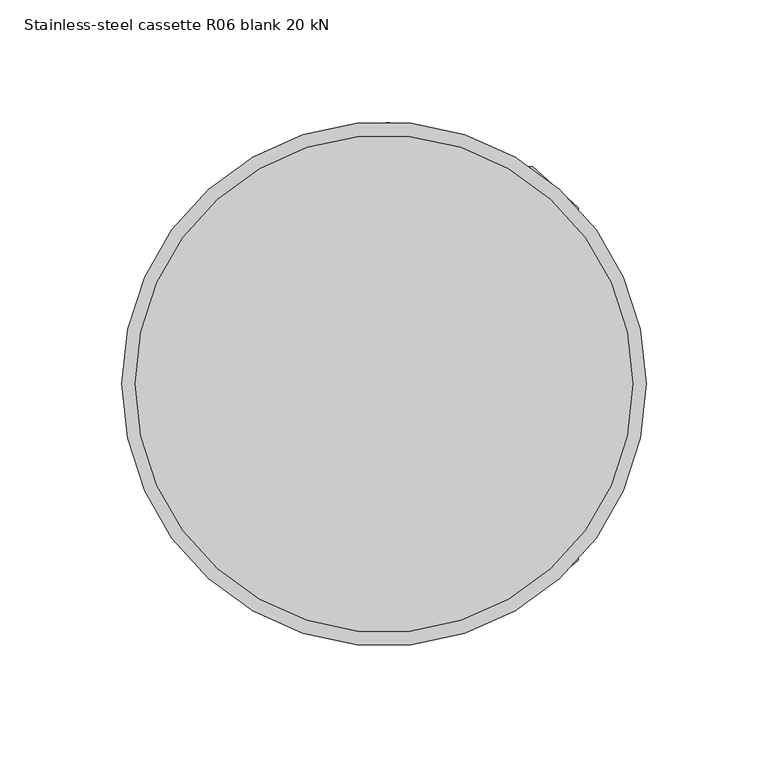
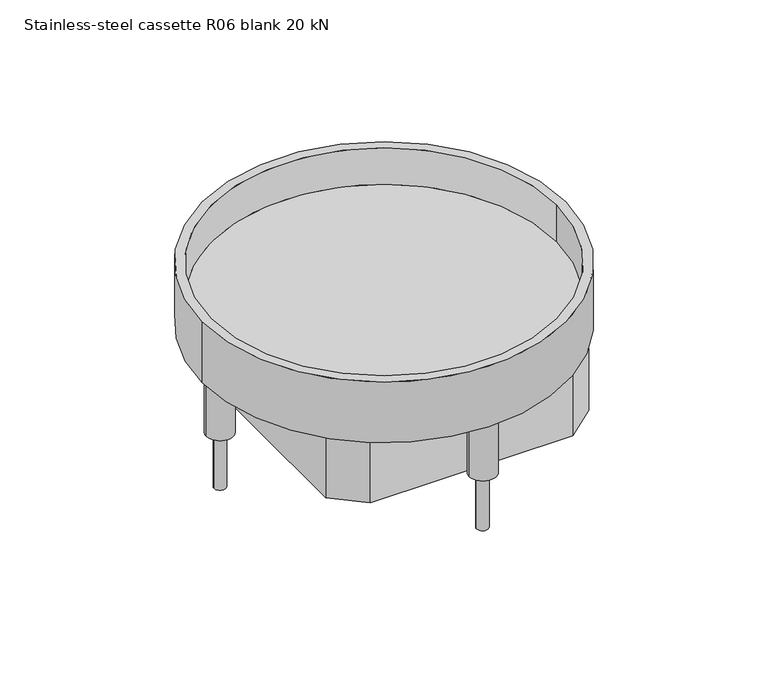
"""IFC4 building model written with IfcOpenShell, lengths in millimetres: proxy geometry, Electrical_Installation_Hager_VE-EE_EKSR0620BL-Heavy-duty-cassette-R06-blank : Stainless-steel cassette R06 blank 20 kN."""

import ifcopenshell
import ifcopenshell.guid

model = None  # the IFC model being written
_history = None  # IfcOwnerHistory: only IFC2X3 demands one
_inside = {}  # id of a spatial element -> (the spatial element, [elements in it])
_under = {}  # id of a project, library or spatial element -> (it, [spatial elements below it])
_declared = {}  # id of a project -> (the project, [libraries it declares])
_typed = {}  # id of a type object -> (the type object, [elements of that type])
_made_of = {}  # id of a material, layer set ... -> (it, [elements and type objects made of it])


def new_model(schema):
    """Start an empty IFC model of exactly this schema.

    Asked for "IFC4X3", IfcOpenShell would pick the latest addendum, in which some entities
    have other attributes; the version numbers below select the first issue.
    IFC2X3 requires an IfcOwnerHistory on every rooted entity: one is made here for all.
    """
    global model, _history
    if schema == "IFC4X3":
        model = ifcopenshell.file(schema_version=(4, 3, 0, 0))
    else:
        model = ifcopenshell.file(schema=schema)
    _inside.clear()
    _under.clear()
    _declared.clear()
    _typed.clear()
    _made_of.clear()
    _history = None
    if model.schema == "IFC2X3":
        org = make("IfcOrganization", Name="unknown")
        user = make(
            "IfcPersonAndOrganization",
            ThePerson=make("IfcPerson", FamilyName="unknown"),
            TheOrganization=org,
        )
        app = make(
            "IfcApplication",
            ApplicationDeveloper=org,
            Version="unknown",
            ApplicationFullName="unknown",
            ApplicationIdentifier="unknown",
        )
        _history = make(
            "IfcOwnerHistory",
            OwningUser=user,
            OwningApplication=app,
            ChangeAction="ADDED",
            CreationDate=0,
        )
    return model


def make(cls, **values):
    """One entity of the class cls with the attributes given. An attribute that is None is left unset."""
    return model.create_entity(
        cls, **{name: value for name, value in values.items() if value is not None}
    )


def rooted(cls, **values):
    """An entity with a GlobalId (a new one), such as an element, a storey or a relation."""
    return make(cls, GlobalId=ifcopenshell.guid.new(), OwnerHistory=_history, **values)


def si_unit(unit_type, name, prefix=None):
    """IfcSIUnit, for example si_unit("LENGTHUNIT", "METRE", prefix="MILLI")."""
    return make("IfcSIUnit", UnitType=unit_type, Prefix=prefix, Name=name)


def assignment(units):
    """IfcUnitAssignment: the units of a project."""
    return None if units is None else make("IfcUnitAssignment", Units=units)


def point(xyz):
    """IfcCartesianPoint."""
    return None if xyz is None else make("IfcCartesianPoint", Coordinates=xyz)


def direction(xyz):
    """IfcDirection."""
    return None if xyz is None else make("IfcDirection", DirectionRatios=xyz)


def frame(location, z_axis=None, x_axis=None):
    """IfcAxis2Placement3D, a coordinate frame: its origin and axes. An axis left out is left unset."""
    return make(
        "IfcAxis2Placement3D",
        Location=point(location),
        Axis=direction(z_axis),
        RefDirection=direction(x_axis),
    )


def frame_2d(location, x_axis=None):
    """IfcAxis2Placement2D, a coordinate frame in the plane: its origin and x axis."""
    return make(
        "IfcAxis2Placement2D", Location=point(location), RefDirection=direction(x_axis)
    )


def origin():
    """The frame at (0, 0, 0) with its axes left unset."""
    return frame((0.0, 0.0, 0.0))


def place(relative_to, where):
    """IfcLocalPlacement: puts the frame where relative to a parent placement (None: the world)."""
    return make(
        "IfcLocalPlacement", PlacementRelTo=relative_to, RelativePlacement=where
    )


def context(
    kind, dimensions, precision=None, world=None, true_north=None, identifier=None
):
    """IfcGeometricRepresentationContext, for example the 3D "Model" context."""
    return make(
        "IfcGeometricRepresentationContext",
        ContextIdentifier=identifier,
        ContextType=kind,
        CoordinateSpaceDimension=dimensions,
        Precision=precision,
        WorldCoordinateSystem=world,
        TrueNorth=true_north,
    )


def project(units=None, contexts=None):
    """IfcProject with its units and contexts."""
    return rooted(
        "IfcProject",
        Name="project",
        RepresentationContexts=contexts,
        UnitsInContext=assignment(units),
    )


def spatial(cls, under=None, at=None, **own):
    """A site, building, storey or space (cls), placed at a placement, below another one or the project."""
    s = rooted(cls, ObjectPlacement=at, **own)
    if under is not None:
        _under.setdefault(under.id(), (under, []))[1].append(s)
    return s


def polyline(points):
    """IfcPolyline through the points."""
    return make("IfcPolyline", Points=[point(p) for p in points])


def circle_curve(where, radius):
    """IfcCircle in the frame where."""
    return make("IfcCircle", Position=where, Radius=radius)


def trimmed(basis, trim1, trim2, sense, master):
    """IfcTrimmedCurve: the piece of a basis curve between two trims."""
    return make(
        "IfcTrimmedCurve",
        BasisCurve=basis,
        Trim1=trim1,
        Trim2=trim2,
        SenseAgreement=sense,
        MasterRepresentation=master,
    )


def segment(curve, same_sense, transition):
    """IfcCompositeCurveSegment."""
    return make(
        "IfcCompositeCurveSegment",
        Transition=transition,
        SameSense=same_sense,
        ParentCurve=curve,
    )


def composite_curve(segments, self_intersect=None):
    """IfcCompositeCurve: segments joined end to end."""
    return make("IfcCompositeCurve", Segments=segments, SelfIntersect=self_intersect)


def outline(outer, holes=None, kind="AREA"):
    """IfcArbitraryClosedProfileDef: a profile drawn as a closed curve; with holes, ...WithVoids."""
    if holes is None:
        return make("IfcArbitraryClosedProfileDef", ProfileType=kind, OuterCurve=outer)
    return make(
        "IfcArbitraryProfileDefWithVoids",
        ProfileType=kind,
        OuterCurve=outer,
        InnerCurves=holes,
    )


def extrude(swept, where, along, depth):
    """IfcExtrudedAreaSolid: the profile swept, set in the frame where, extruded along a direction by depth."""
    return make(
        "IfcExtrudedAreaSolid",
        SweptArea=swept,
        Position=where,
        ExtrudedDirection=direction(along),
        Depth=depth,
    )


def shape(context_of_items, identifier, shape_type, items):
    """IfcShapeRepresentation: the items that make up one representation, for example the "Body"."""
    return make(
        "IfcShapeRepresentation",
        ContextOfItems=context_of_items,
        RepresentationIdentifier=identifier,
        RepresentationType=shape_type,
        Items=items,
    )


def source(mapping_origin, context_of_items, identifier, shape_type, items):
    """IfcRepresentationMap: a shape defined once, which mapped items show again and again."""
    return make(
        "IfcRepresentationMap",
        MappingOrigin=mapping_origin,
        MappedRepresentation=shape(context_of_items, identifier, shape_type, items),
    )


def transform(
    local_origin,
    x_axis=None,
    y_axis=None,
    z_axis=None,
    scale=None,
    scale2=None,
    scale3=None,
    uniform=True,
):
    """IfcCartesianTransformationOperator3D, or its non-uniform kind. x_axis, y_axis, z_axis: its Axis1, 2, 3."""
    if uniform:
        return make(
            "IfcCartesianTransformationOperator3D",
            Axis1=direction(x_axis),
            Axis2=direction(y_axis),
            LocalOrigin=point(local_origin),
            Scale=scale,
            Axis3=direction(z_axis),
        )
    return make(
        "IfcCartesianTransformationOperator3DnonUniform",
        Axis1=direction(x_axis),
        Axis2=direction(y_axis),
        LocalOrigin=point(local_origin),
        Scale=scale,
        Axis3=direction(z_axis),
        Scale2=scale2,
        Scale3=scale3,
    )


def mapped(mapping_source, mapping_target):
    """IfcMappedItem: shows the shape of a source again, moved by a transform."""
    return make(
        "IfcMappedItem", MappingSource=mapping_source, MappingTarget=mapping_target
    )


def made_of(thing, what):
    """Note that an element or type object is made of a material, layer set ...; save() writes the relation."""
    if what is not None:
        _made_of.setdefault(what.id(), (what, []))[1].append(thing)
    return thing


def element(
    cls,
    number,
    at=None,
    inside=None,
    cuts=None,
    type_object=None,
    material=None,
    context=None,
    identifier="Body",
    shape_type=None,
    held_by="IfcProductDefinitionShape",
    body=None,
    shapes=None,
    **own,
):
    """One element of the class cls, such as IfcWall. Its Tag is "e" and its number.

    at: its placement. inside: the storey or other place that contains it. cuts: it is an
    opening in that element (IfcRelVoidsElement). A single representation is given by context,
    identifier, shape_type and body (its items); several are given by shapes. held_by: the class
    of the entity that holds the representations. save() writes the other relations.
    """
    e = rooted(cls, Tag="e%d" % number, ObjectPlacement=at, **own)
    if body is not None:
        shapes = [shape(context, identifier, shape_type, body)]
    if shapes is not None:
        e.Representation = make(held_by, Representations=shapes)
    if inside is not None:
        _inside.setdefault(inside.id(), (inside, []))[1].append(e)
    if cuts is not None:
        rooted(
            "IfcRelVoidsElement", RelatingBuildingElement=cuts, RelatedOpeningElement=e
        )
    if type_object is not None:
        _typed.setdefault(type_object.id(), (type_object, []))[1].append(e)
    return made_of(e, material)


def aggregate(whole, parts):
    """IfcRelAggregates: a whole, such as a stair, and the parts it consists of."""
    return rooted("IfcRelAggregates", RelatingObject=whole, RelatedObjects=parts)


def save(model, path):
    """Write the relations noted so far, then the file.

    IfcRelAggregates (storeys below a building ...), IfcRelContainedInSpatialStructure (elements
    in a storey), IfcRelDefinesByType, IfcRelAssociatesMaterial and IfcRelDeclares: one each for
    every whole, place, type object, material and project.
    """
    for whole, parts in _under.values():
        aggregate(whole, parts)
    for where, things in _inside.values():
        rooted(
            "IfcRelContainedInSpatialStructure",
            RelatedElements=things,
            RelatingStructure=where,
        )
    for kind, things in _typed.values():
        rooted("IfcRelDefinesByType", RelatedObjects=things, RelatingType=kind)
    for what, things in _made_of.values():
        rooted("IfcRelAssociatesMaterial", RelatedObjects=things, RelatingMaterial=what)
    for by, libraries in _declared.values():
        rooted("IfcRelDeclares", RelatingContext=by, RelatedDefinitions=libraries)
    model.write(path)


def plane_surface(at):
    """IfcPlane: the flat surface through the origin of the frame at, square to its z axis."""
    return make("IfcPlane", Position=at)


def cylinder_surface(at, radius):
    """IfcCylindricalSurface: all points at the distance radius from the z axis of the frame at."""
    return make("IfcCylindricalSurface", Position=at, Radius=radius)


def revolved_surface(curve, axis_point, axis_direction):
    """IfcSurfaceOfRevolution: the curve turned about the line through axis_point along axis_direction."""
    return make(
        "IfcSurfaceOfRevolution",
        SweptCurve=make("IfcArbitraryOpenProfileDef", ProfileType="CURVE", Curve=curve),
        AxisPosition=make("IfcAxis1Placement", Location=point(axis_point), Axis=direction(axis_direction)),
    )


def advanced_brep(points, edges, surfaces, faces):
    """IfcAdvancedBrep: a solid bounded by faces that lie on surfaces and meet in shared edges.

    An edge is (start, end): straight between two places in points (the first is 0);
    or (start, end, curve); or (start, end, curve, False) where it runs against its curve.
    A face is (place in surfaces, loops), or (place, loops, False) where it looks against
    its surface's normal. A loop lists edges by number (the first is 1), with a minus sign
    where the edge is run from its end to its start. The first loop is the outer one.
    """
    corners = [point(p) for p in points]
    vertices = [make("IfcVertexPoint", VertexGeometry=c) for c in corners]
    made = []
    for start, end, *more in edges:
        made.append(
            make(
                "IfcEdgeCurve",
                EdgeStart=vertices[start],
                EdgeEnd=vertices[end],
                EdgeGeometry=more[0] if more else make("IfcPolyline", Points=[corners[start], corners[end]]),
                SameSense=more[1] if len(more) > 1 else True,
            )
        )
    hull = []
    for where, loops, *sense in faces:
        bounds = []
        for j, loop in enumerate(loops):
            ring = [make("IfcOrientedEdge", EdgeElement=made[abs(k) - 1], Orientation=k > 0) for k in loop]
            bounds.append(
                make(
                    "IfcFaceOuterBound" if j == 0 else "IfcFaceBound",
                    Bound=make("IfcEdgeLoop", EdgeList=ring),
                    Orientation=True,
                )
            )
        hull.append(make("IfcAdvancedFace", Bounds=bounds, FaceSurface=surfaces[where], SameSense=sense[0] if sense else True))
    return make("IfcAdvancedBrep", Outer=make("IfcClosedShell", CfsFaces=hull))


def stainless_steel_cassette_r06_blank_20_kn_3fd5dd5a(model_context):
    return source(origin(), model_context, "Body", "SolidModel", [
        extrude(outline(composite_curve([segment(trimmed(circle_curve(frame_2d((-96.75, 0.625)), 3.5), [point((-100.25, 0.625))], [point((-93.25, 0.625))], False, "CARTESIAN"), True, "CONTINUOUS"), segment(trimmed(circle_curve(frame_2d((-96.75, 0.625)), 3.5), [point((-93.25, 0.625))], [point((-100.25, 0.625))], False, "CARTESIAN"), True, "CONTINUOUS")], self_intersect=False)), frame((0.0, 0.0, -105.0), z_axis=(0.0, 0.0, 1.0), x_axis=(1.0, 0.0, 0.0)), (0.0, 0.0, 1.0), 69.011943),
        extrude(outline(composite_curve([segment(trimmed(circle_curve(frame_2d((1.4883358, 98.943982)), 3.5), [point((-2.0116642, 98.943982))], [point((4.9883358, 98.943982))], False, "CARTESIAN"), True, "CONTINUOUS"), segment(trimmed(circle_curve(frame_2d((1.4883358, 98.943982)), 3.5), [point((4.9883358, 98.943982))], [point((-2.0116642, 98.943982))], False, "CARTESIAN"), True, "CONTINUOUS")], self_intersect=False)), frame((0.0, 0.0, -105.0), z_axis=(0.0, 0.0, 1.0), x_axis=(1.0, 0.0, 0.0)), (0.0, 0.0, 1.0), 69.011943),
        extrude(outline(composite_curve([segment(trimmed(circle_curve(frame_2d((100.1407046, 0.5401818)), 3.548869), [point((96.5918356, 0.5401818))], [point((103.6895736, 0.5401818))], False, "CARTESIAN"), True, "CONTINUOUS"), segment(trimmed(circle_curve(frame_2d((100.1407046, 0.5401818)), 3.548869), [point((103.6895736, 0.5401818))], [point((96.5918356, 0.5401818))], False, "CARTESIAN"), True, "CONTINUOUS")], self_intersect=False)), frame((0.0, 0.0, -105.0), z_axis=(0.0, 0.0, 1.0), x_axis=(1.0, 0.0, 0.0)), (0.0, 0.0, 1.0), 69.011943),
        extrude(outline(composite_curve([segment(trimmed(circle_curve(frame_2d((1.6828656, -97.9253063)), 3.5), [point((-1.8171344, -97.9253063))], [point((5.1828656, -97.9253063))], False, "CARTESIAN"), True, "CONTINUOUS"), segment(trimmed(circle_curve(frame_2d((1.6828656, -97.9253063)), 3.5), [point((5.1828656, -97.9253063))], [point((-1.8171344, -97.9253063))], False, "CARTESIAN"), True, "CONTINUOUS")], self_intersect=False)), frame((0.0, 0.0, -105.0), z_axis=(0.0, 0.0, 1.0), x_axis=(1.0, 0.0, 0.0)), (0.0, 0.0, 1.0), 69.011943),
        advanced_brep(
        [(102.0, 0.0, -20.988057), (-102.0, 0.0, -20.988057), (-107.5, 0.0, -35.988057), (107.5, 0.0, -35.988057), (-107.5, 0.0, 2.011943), (107.5, 0.0, 2.011943), (-102.0, 0.0, 2.011943), (102.0, 0.0, 2.011943)],
        [
            (0, 1, circle_curve(frame((0.0, 0.0, -20.988057), z_axis=(0.0, 0.0, 1.0), x_axis=(1.0, 0.0, 0.0)), 102.0)),
            (1, 0, circle_curve(frame((0.0, 0.0, -20.988057), z_axis=(0.0, 0.0, 1.0), x_axis=(1.0, 0.0, 0.0)), 102.0)),
            (2, 3, circle_curve(frame((0.0, 0.0, -35.988057), z_axis=(0.0, 0.0, -1.0), x_axis=(1.0, 0.0, 0.0)), 107.5)),
            (3, 2, circle_curve(frame((0.0, 0.0, -35.988057), z_axis=(0.0, 0.0, -1.0), x_axis=(1.0, 0.0, 0.0)), 107.5)),
            (4, 5, circle_curve(frame((0.0, 0.0, 2.011943), z_axis=(0.0, 0.0, 1.0), x_axis=(1.0, 0.0, 0.0)), 107.5)),
            (5, 4, circle_curve(frame((0.0, 0.0, 2.011943), z_axis=(0.0, 0.0, 1.0), x_axis=(1.0, 0.0, 0.0)), 107.5)),
            (6, 7, circle_curve(frame((0.0, 0.0, 2.011943), z_axis=(0.0, 0.0, -1.0), x_axis=(1.0, 0.0, 0.0)), 102.0)),
            (7, 6, circle_curve(frame((0.0, 0.0, 2.011943), z_axis=(0.0, 0.0, -1.0), x_axis=(1.0, 0.0, 0.0)), 102.0)),
            (4, 2),
            (3, 5),
            (6, 1),
            (0, 7),
        ],
        [
            plane_surface(frame((102.0, 0.0, -20.988057), z_axis=(0.0, 0.0, 1.0), x_axis=(0.0, 1.0, 0.0))),
            plane_surface(frame((102.0, 0.0, -35.988057), z_axis=(0.0, 0.0, -1.0), x_axis=(0.0, -1.0, 0.0))),
            plane_surface(frame((107.5, 0.0, 2.011943), z_axis=(0.0, 0.0, 1.0), x_axis=(0.0, 1.0, 0.0))),
            cylinder_surface(frame((0.0, 0.0, -35.988057), z_axis=(0.0, 0.0, 1.0), x_axis=(1.0, 0.0, 0.0)), 107.5),
            revolved_surface(polyline([(102.0, 0.0, -20.988057), (102.0, 0.0, 2.011943)]), (0.0, 0.0, 0.0), (0.0, 0.0, -1.0)),
        ],
        [
            (0, [[1, 2]]),
            (1, [[3, 4]]),
            (2, [[5, 6], [7, 8]]),
            (3, [[-5, 9, -4, 10]]),
            (3, [[-6, -10, -3, -9]]),
            (4, [[-7, 11, -1, 12]]),
            (4, [[-8, -12, -2, -11]]),
        ],
    ),
        extrude(outline(polyline([(79.5933184, -72.2575509), (60.8539644, -87.9817359), (-58.8741225, -87.9817359), (-76.4066816, -72.7409148), (-76.4066816, 72.7621921), (-58.3457118, 89.018267), (60.9716777, 89.018267), (79.5933184, 72.2575509), (79.5933184, -72.2575509)]), holes=[polyline([(-73.9066816, 72.0004319), (-73.9066816, -72.6903231), (-58.6624673, -85.4817377), (61.5657928, -85.4817377), (77.0933184, -72.4525967), (77.0933184, 72.2575509), (61.2492553, 86.5182623), (-57.7769518, 86.5182623), (-73.9066816, 72.0004319)])]), frame((0.0, 0.0, -74.8629947), z_axis=(0.0, 0.0, 1.0), x_axis=(1.0, 0.0, 0.0)), (0.0, 0.0, 1.0), 38.8749377),
        extrude(outline(composite_curve([segment(trimmed(circle_curve(frame_2d((1.5928677, 99.1281573)), 8.0), [point((-6.4071323, 99.1281573))], [point((9.5928677, 99.1281573))], False, "CARTESIAN"), True, "CONTINUOUS"), segment(trimmed(circle_curve(frame_2d((1.5928677, 99.1281573)), 8.0), [point((9.5928677, 99.1281573))], [point((-6.4071323, 99.1281573))], False, "CARTESIAN"), True, "CONTINUOUS")], self_intersect=False)), frame((0.0, 0.0, -70.8629319), z_axis=(0.0, 0.0, 1.0), x_axis=(1.0, 0.0, 0.0)), (0.0, 0.0, 1.0), 34.8748749),
        extrude(outline(composite_curve([segment(trimmed(circle_curve(frame_2d((98.943982, 0.4579495)), 8.0), [point((90.943982, 0.4579495))], [point((106.943982, 0.4579495))], False, "CARTESIAN"), True, "CONTINUOUS"), segment(trimmed(circle_curve(frame_2d((98.943982, 0.4579495)), 8.0), [point((106.943982, 0.4579495))], [point((90.943982, 0.4579495))], False, "CARTESIAN"), True, "CONTINUOUS")], self_intersect=False)), frame((0.0, 0.0, -70.8629319), z_axis=(0.0, 0.0, 1.0), x_axis=(1.0, 0.0, 0.0)), (0.0, 0.0, 1.0), 34.8748749),
        extrude(outline(composite_curve([segment(trimmed(circle_curve(frame_2d((1.9462852, -97.9042347)), 8.0), [point((-6.0537148, -97.9042347))], [point((9.9462852, -97.9042347))], False, "CARTESIAN"), True, "CONTINUOUS"), segment(trimmed(circle_curve(frame_2d((1.9462852, -97.9042347)), 8.0), [point((9.9462852, -97.9042347))], [point((-6.0537148, -97.9042347))], False, "CARTESIAN"), True, "CONTINUOUS")], self_intersect=False)), frame((0.0, 0.0, -70.8629319), z_axis=(0.0, 0.0, 1.0), x_axis=(1.0, 0.0, 0.0)), (0.0, 0.0, 1.0), 34.8748749),
        extrude(outline(composite_curve([segment(trimmed(circle_curve(frame_2d((-96.8166047, 0.6583024)), 8.0), [point((-104.8166047, 0.6583024))], [point((-88.8166047, 0.6583024))], False, "CARTESIAN"), True, "CONTINUOUS"), segment(trimmed(circle_curve(frame_2d((-96.8166047, 0.6583024)), 8.0), [point((-88.8166047, 0.6583024))], [point((-104.8166047, 0.6583024))], False, "CARTESIAN"), True, "CONTINUOUS")], self_intersect=False)), frame((0.0, 0.0, -70.8629319), z_axis=(0.0, 0.0, 1.0), x_axis=(1.0, 0.0, 0.0)), (0.0, 0.0, 1.0), 34.8748749),
    ])


if __name__ == "__main__":
    model = new_model("IFC4")
    model_context = context("Model", 3, world=origin())
    ifc_project = project(units=[si_unit("LENGTHUNIT", "METRE", prefix="MILLI")], contexts=[model_context])
    site = spatial("IfcSite", under=ifc_project)
    building = spatial("IfcBuilding", under=site)
    placement = place(None, origin())
    stainless_steel_cassette_r06_blank_20_kn_shape = stainless_steel_cassette_r06_blank_20_kn_3fd5dd5a(model_context)
    element("IfcBuildingElementProxy", 1, Name="Electrical_Installation_Hager_VE-EE_EKSR0620BL-Heavy-duty-cassette-R06-blank : Stainless-steel cassette R06 blank 20 kN", ObjectType="Electrical_Installation_Hager_VE-EE_EKSR0620BL-Heavy-duty-cassette-R06-blank : Stainless-steel cassette R06 blank 20 kN", at=placement, inside=building, context=model_context, shape_type="MappedRepresentation", body=[
        mapped(stainless_steel_cassette_r06_blank_20_kn_shape, transform((0.0, 0.0, 0.0), x_axis=(1.0, 0.0, 0.0), y_axis=(0.0, 1.0, 0.0), z_axis=(0.0, 0.0, 1.0))),
    ])
    save(model, "model.ifc")
